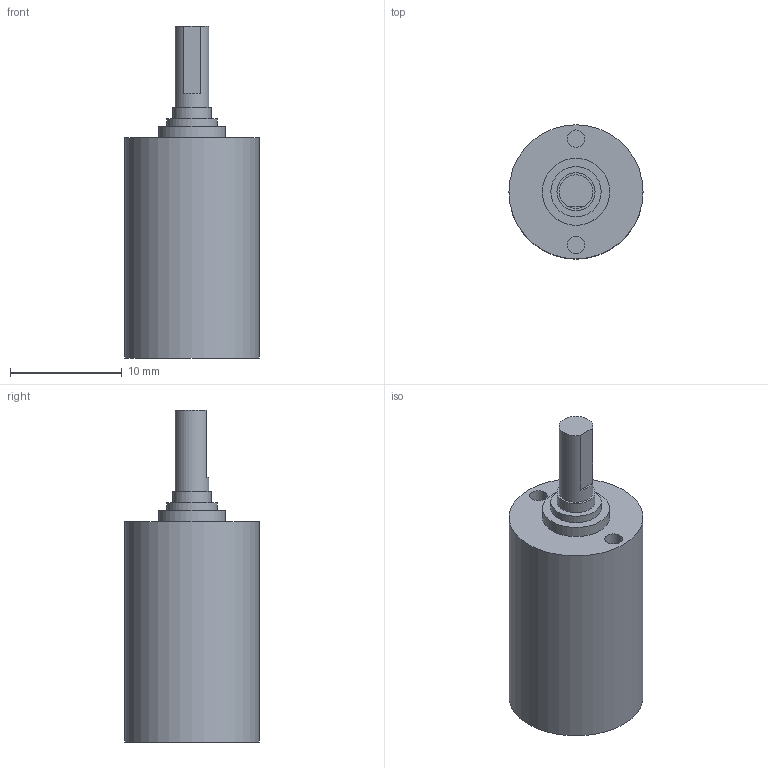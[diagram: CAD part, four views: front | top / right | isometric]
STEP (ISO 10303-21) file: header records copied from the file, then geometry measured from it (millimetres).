
FILE_DESCRIPTION((''),'2;1');
FILE_NAME('G:\Disegni\Progetti\D8500÷D8599\D8514\Riduttori\E - Riduttori STEP - SBZ\12_4 STEP\12_4 2stage.stp','2012-05-24T15:46:13',('bonazzoli'),(''),'Autodesk Inventor 2012','Autodesk Inventor 2012','');
FILE_SCHEMA(('AUTOMOTIVE_DESIGN { 1 0 10303 214 1 1 1 1 }'));
Length unit declared in the file: millimetre
Products named in the file (1): 12_4 2stage
Bounding box: 12 x 12 x 29.7 mm (x, y, z)
Volume: 2319.2 mm3; surface area: 1096.4 mm2
Topology: 1 solids, 1 shells, 17 faces, 27 edges, 18 vertices
Faces by surface type: plane 10, cylinder 7
Full cylindrical faces by diameter (mm): 1.567 x2, 3 x1, 3.4 x1, 4.5 x1, 6 x1, 12 x1
Entity records: 378 total; most frequent: DIRECTION 70, CARTESIAN_POINT 54, ORIENTED_EDGE 38, AXIS2_PLACEMENT_3D 33, EDGE_LOOP 30, EDGE_CURVE 19, VERTEX_POINT 17, FACE_OUTER_BOUND 17
